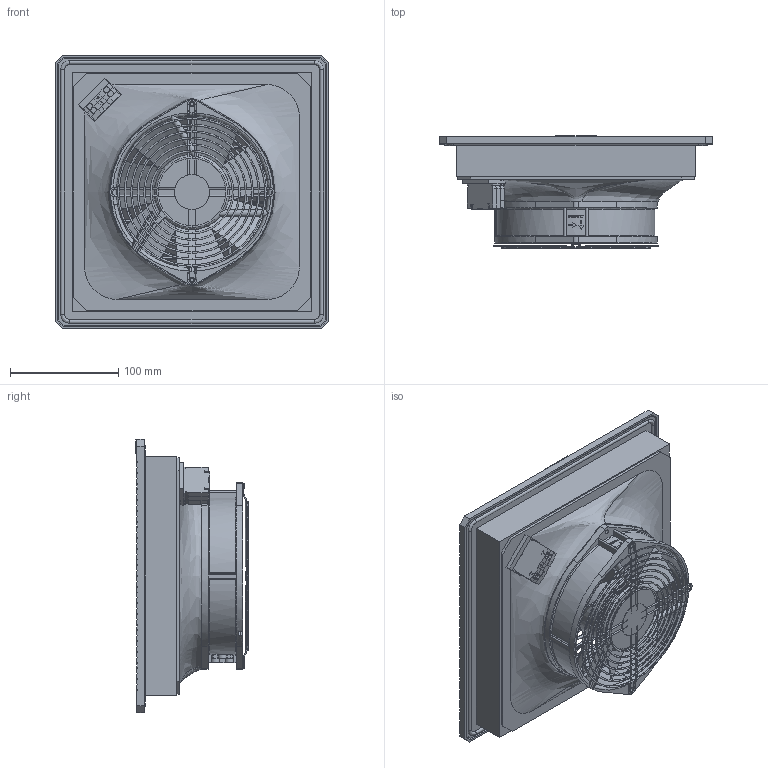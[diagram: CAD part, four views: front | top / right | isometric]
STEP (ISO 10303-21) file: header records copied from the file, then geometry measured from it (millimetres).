
FILE_DESCRIPTION (( 'STEP AP203' ), '1' );
FILE_NAME ('EF300-24R5_V2.step', '2013-02-08T07:43:59', ( '' ), ( '' ), 'SwSTEP 2.0', 'SolidWorks 2011', '' );
FILE_SCHEMA (( 'CONFIG_CONTROL_DESIGN' ));
Length unit declared in the file: millimetre
Products named in the file (7): Klemme_+_-_Standard; flow in nozzle PF4x_Standard; EF300-24R5_V2; housing PF4x_Standard; cover PF4x_Standard; 005047030 - Berührungsschutzgitter LZ 27_005047030 - LZ27; Axiallüfter Serie 7100N_Vent. DC Serie 7100N
Assembly tree (6 placements, depth 2):
  EF300-24R5_V2
    Klemme_+_-_Standard
    cover PF4x_Standard
    Axiallüfter Serie 7100N_Vent. DC Serie 7100N
    housing PF4x_Standard
    flow in nozzle PF4x_Standard
    005047030 - Berührungsschutzgitter LZ 27_005047030 - LZ27
Bounding box: 252 x 103.67 x 252 mm (x, y, z)
Volume: 624578.2 mm3; surface area: 538589.8 mm2
Topology: 11 solids, 11 shells, 2513 faces, 7307 edges, 4682 vertices
Faces by surface type: plane 1518, cylinder 659, bspline 278, torus 34, cone 24
Entity records: 142601 total; most frequent: CARTESIAN_POINT 79031, ORIENTED_EDGE 14614, DIRECTION 10999, EDGE_CURVE 7307, VERTEX_POINT 4682, LINE 4465, VECTOR 4465, AXIS2_PLACEMENT_3D 3267
